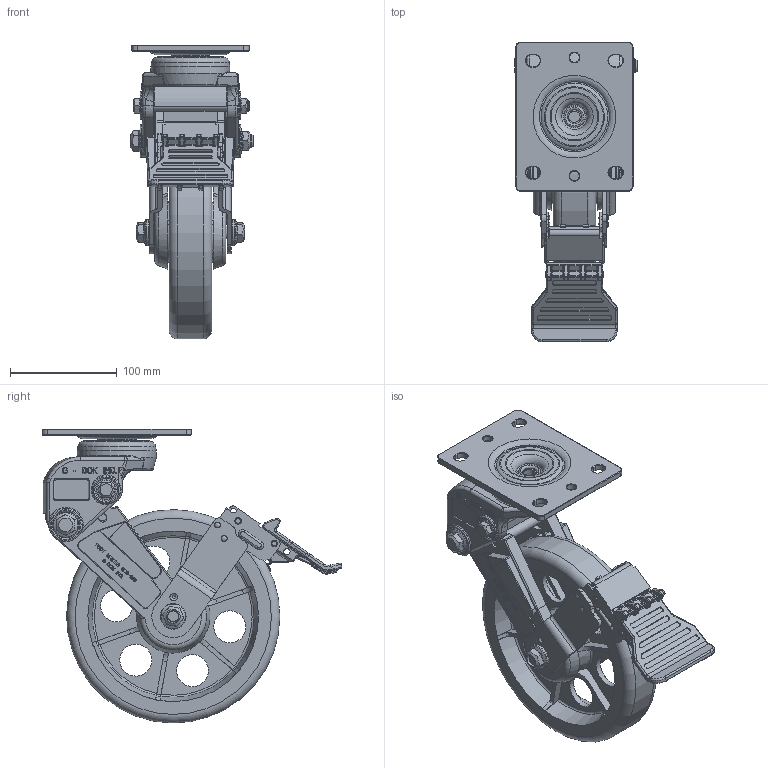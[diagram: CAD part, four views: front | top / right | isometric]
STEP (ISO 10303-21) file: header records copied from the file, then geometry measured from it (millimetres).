
FILE_DESCRIPTION(/* description */ (''),/* implementation_level */ '2;1');
FILE_NAME(/* name */ 'D:\도면\GDS\단순화\GDS-200\GDS-200-BSF-PEU.stp',/* time_stamp */ '2015-07-09T10:11:36+09:00',/* author */ ('GR-DT-1-007'),/* organization */ (''),/* preprocessor_version */ 'ST-DEVELOPER v15.6',/* originating_system */ 'Autodesk Inventor 2015',/* authorisation */ '');
FILE_SCHEMA (('AUTOMOTIVE_DESIGN { 1 0 10303 214 3 1 1 }'));
Products named in the file (1): GDS-200-BSF-PEU
Bounding box: 114.5 x 280.94 x 275.62 mm (x, y, z)
Volume: 1390250.8 mm3; surface area: 352488.4 mm2
Topology: 4 solids, 4 shells, 3725 faces, 9935 edges, 6323 vertices
Faces by surface type: bspline 1271, plane 1210, cylinder 805, torus 228, cone 132, sphere 79
Full cylindrical faces by diameter (mm): 3 x3, 4 x6, 4.1 x3, 4.2 x7, 4.8 x2, 6 x2, 7.5 x2, 8 x4, 9 x2, 10 x4, 10.7 x3, 12 x4, 12.2 x2, 13 x1, 15.1 x2, 18 x1, 18.6 x2, 20 x3, 20.4 x2, 21.667 x4, 24 x4, 25 x1, 26 x2, 27 x1, 28.333 x4, 29 x1, 30 x7, 30.6 x1, 31 x2, 39 x1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
Entity records: 139382 total; most frequent: CARTESIAN_POINT 52075, ORIENTED_EDGE 19124, DIRECTION 14124, EDGE_CURVE 9562, VERTEX_POINT 6237, AXIS2_PLACEMENT_3D 4881, LINE 4362, VECTOR 4362
